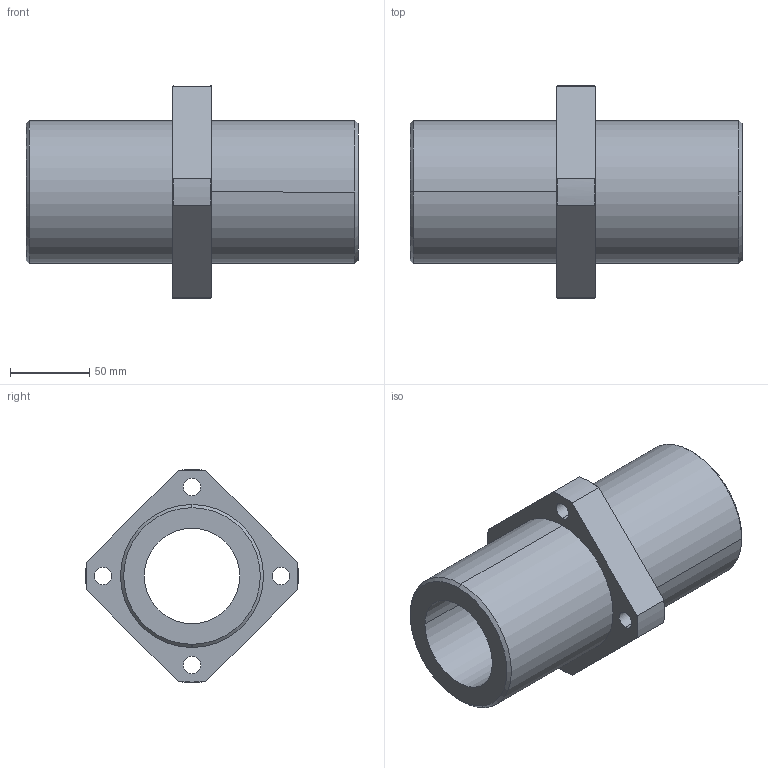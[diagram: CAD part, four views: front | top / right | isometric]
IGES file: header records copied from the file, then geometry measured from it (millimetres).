
Start section: 3D InterOp IGES (Version 21 0 1), Spatial Corp. Copyright (c) 1999-2007.
Global section: file name: CFPJ60.igs; native system: Spatial Corp.; preprocessor: 3D InterOp GENERIC/IGES 3.0; author: Noname; organization: Noname; date: 20220324.125608; units: millimetre
Bounding box: 209 x 133.88 x 134 mm (x, y, z)
Surface area: 120197.3 mm2 (no closed solid volume)
Topology: 0 solids, 0 shells, 53 faces, 264 edges, 264 vertices
Faces by surface type: revolution 41, extrusion 12
